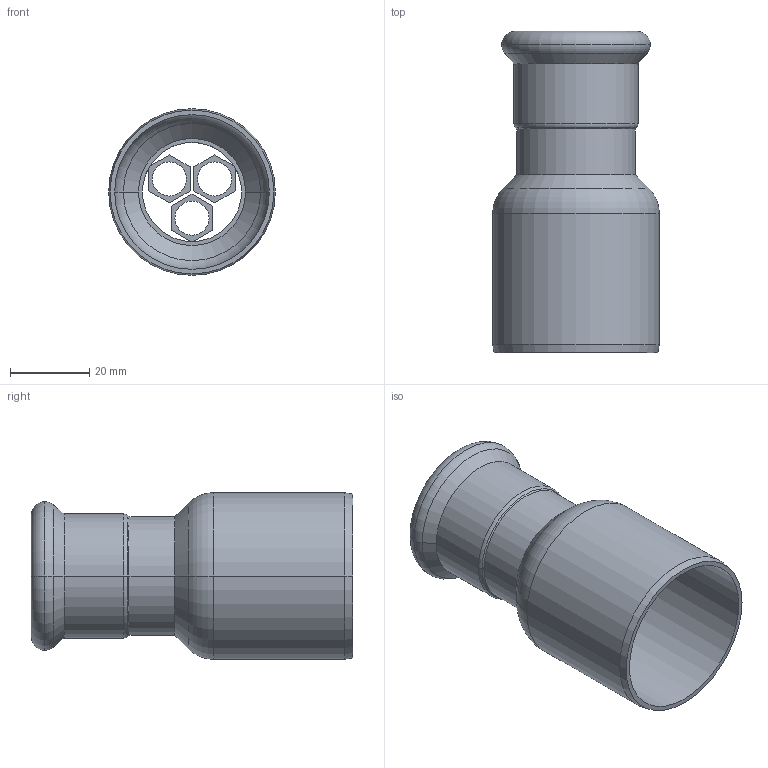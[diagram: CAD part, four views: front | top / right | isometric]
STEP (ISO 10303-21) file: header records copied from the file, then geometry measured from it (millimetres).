
FILE_DESCRIPTION(('CoCreate Modeling STEP Export'),'2;1');
FILE_NAME('C1407 28x42.stp','2014-11-07T16:32:57',(''),(''),'CoCreate Modeling STEP processor for AP214 (Solid Model)','CoCreate Modeling 17.00A 17-Jun-2010 (C) Parametric Technology GmbH','');
FILE_SCHEMA(('AUTOMOTIVE_DESIGN { 1 0 10303 214 1 1 1 1 }'));
Length unit declared in the file: millimetre
Products named in the file (2): C1407_28x42
Assembly tree (1 placements, depth 2):
  C1407_28x42
    C1407_28x42
Bounding box: 42 x 81 x 42 mm (x, y, z)
Volume: 16249 mm3; surface area: 19885.5 mm2
Topology: 1 solids, 1 shells, 77 faces, 182 edges, 113 vertices
Faces by surface type: plane 32, cylinder 25, cone 10, torus 10
Entity records: 1953 total; most frequent: ORIENTED_EDGE 364, CARTESIAN_POINT 309, DIRECTION 291, EDGE_CURVE 182, VERTEX_POINT 113, VECTOR 101, LINE 101, AXIS2_PLACEMENT_3D 95
